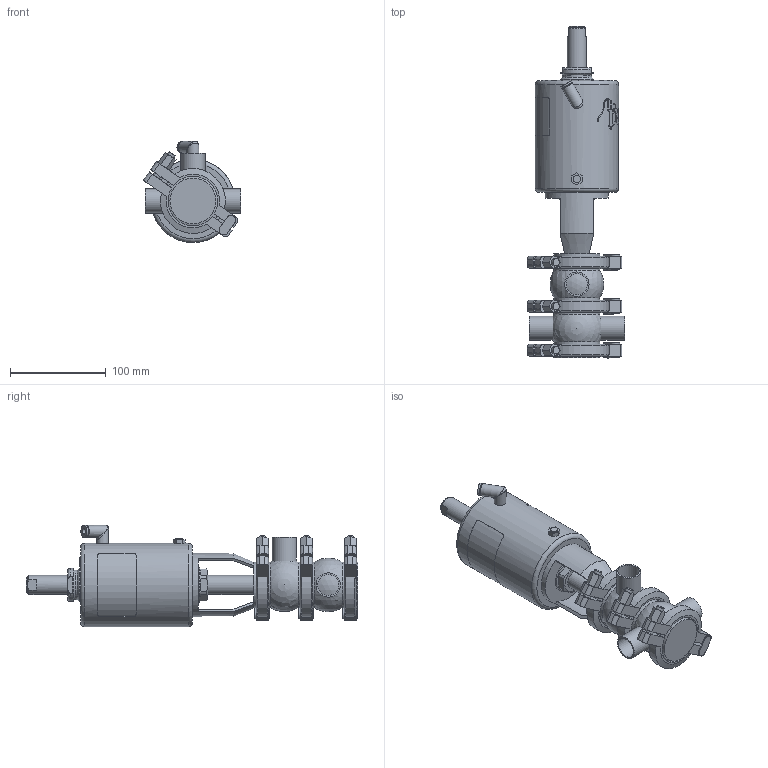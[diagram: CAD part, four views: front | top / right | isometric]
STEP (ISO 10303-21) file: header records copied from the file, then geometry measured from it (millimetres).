
FILE_DESCRIPTION (( 'STEP AP214' ), '1' );
FILE_NAME ('INNOVA M B W OD 1 T1 AS NC_10.241.16.0004.STEP', '2024-08-07T13:07:38', ( '' ), ( '' ), 'SwSTEP 2.0', 'SolidWorks 2023', '' );
FILE_SCHEMA (( 'AUTOMOTIVE_DESIGN' ));
Length unit declared in the file: millimetre
Products named in the file (7): 10.240.15.0001_DN 025; 10.240.15.0006_OD 1"; INNOVA M B W OD 1 T1 AS NC_10.241.16.0004; 10.240.15.0007_OD 1"; 10.240.15.0010_DN 025; 10.241.15.0001_DIN 025; 10.240.15.0014_T1 AS P180
Assembly tree (8 placements, depth 2):
  INNOVA M B W OD 1 T1 AS NC_10.241.16.0004
    10.240.15.0006_OD 1"
    10.240.15.0007_OD 1"
    10.240.15.0010_DN 025
    10.240.15.0014_T1 AS P180
    10.240.15.0001_DN 025  x3
    10.241.15.0001_DIN 025
Bounding box: 101.94 x 347.09 x 105.75 mm (x, y, z)
Volume: 1106927.8 mm3; surface area: 164159.2 mm2
Topology: 9 solids, 9 shells, 468 faces, 1229 edges, 800 vertices
Faces by surface type: plane 226, cylinder 113, bspline 80, cone 40, sphere 5, torus 4
Full cylindrical faces by diameter (mm): 6.15 x1, 8 x7, 8.5 x1, 10.5 x1, 12.5 x3, 16 x1, 20 x2, 22.1 x3, 25.4 x3, 31 x1, 34.5 x2, 36.5 x1, 48 x6, 59.7 x6, 66 x1, 87 x1
Entity records: 19795 total; most frequent: CARTESIAN_POINT 10249, ORIENTED_EDGE 1652, DIRECTION 1301, EDGE_CURVE 826, VERTEX_POINT 571, AXIS2_PLACEMENT_3D 502, EDGE_LOOP 435, FACE_OUTER_BOUND 392
